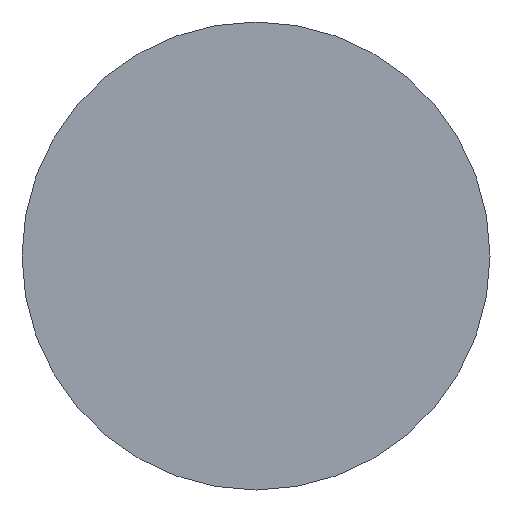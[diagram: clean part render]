
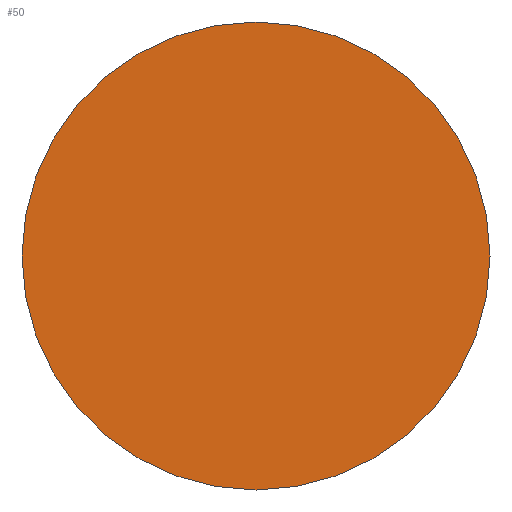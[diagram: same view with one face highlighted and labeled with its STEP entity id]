
A CAD part, front view. The second image highlights one B-rep face of the part: STEP entity #50.
In plain terms, the highlighted planar face has unit normal (0, -1, 0).
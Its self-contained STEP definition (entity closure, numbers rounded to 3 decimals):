
#22 = VERTEX_POINT('',#23);
#23 = CARTESIAN_POINT('',(10.5,-16.,40.9));
#39 = EDGE_CURVE('',#22,#22,#40,.T.);
#40 = CIRCLE('',#41,1.5);
#41 = AXIS2_PLACEMENT_3D('',#42,#43,#44);
#42 = CARTESIAN_POINT('',(10.5,-16.,39.4));
#43 = DIRECTION('',(0.,1.,0.));
#44 = DIRECTION('',(0.,0.,1.));
#50 = ADVANCED_FACE('',(#51),#54,.F.);
#51 = FACE_BOUND('',#52,.F.);
#52 = EDGE_LOOP('',(#53));
#53 = ORIENTED_EDGE('',*,*,#39,.T.);
#54 = PLANE('',#55);
#55 = AXIS2_PLACEMENT_3D('',#56,#57,#58);
#56 = CARTESIAN_POINT('',(0.,-16.,0.));
#57 = DIRECTION('',(0.,1.,0.));
#58 = DIRECTION('',(0.,0.,1.));
